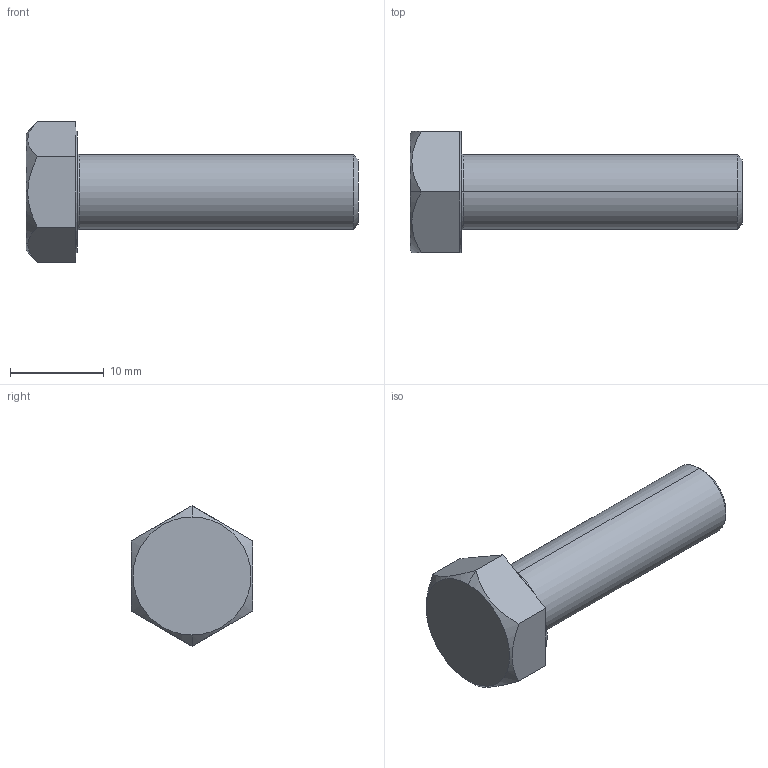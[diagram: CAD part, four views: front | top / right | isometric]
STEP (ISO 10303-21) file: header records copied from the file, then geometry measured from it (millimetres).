
FILE_DESCRIPTION (( 'STEP AP203' ), '1' );
FILE_NAME ('LGN-TD-M8x30.STEP', '2026-08-14T04:21:14', ( '' ), ( '' ), 'SwSTEP 2.0', 'SolidWorks 2020', '' );
FILE_SCHEMA (( 'CONFIG_CONTROL_DESIGN' ));
Length unit declared in the file: millimetre
Products named in the file (1): LGN-TD-M8x30
Bounding box: 35.5 x 13 x 15.01 mm (x, y, z)
Volume: 2299.9 mm3; surface area: 1268.3 mm2
Topology: 1 solids, 1 shells, 25 faces, 54 edges, 32 vertices
Faces by surface type: plane 15, cone 4, cylinder 4, torus 2
Entity records: 809 total; most frequent: CARTESIAN_POINT 182, DIRECTION 122, ORIENTED_EDGE 108, EDGE_CURVE 54, AXIS2_PLACEMENT_3D 48, VERTEX_POINT 32, EDGE_LOOP 26, VECTOR 26
